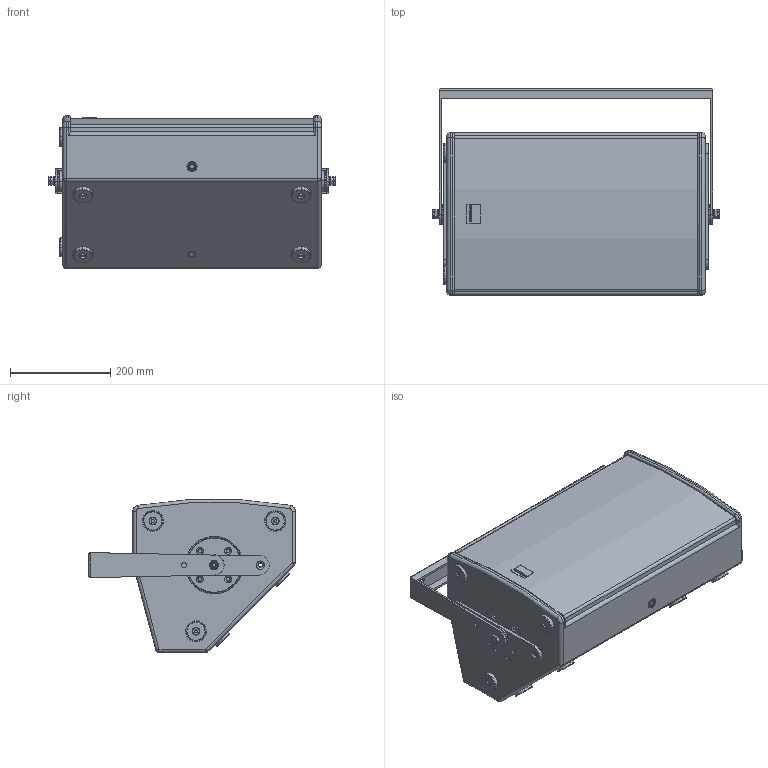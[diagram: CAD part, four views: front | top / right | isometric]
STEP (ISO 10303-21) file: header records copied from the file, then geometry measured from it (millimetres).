
FILE_DESCRIPTION (( 'STEP AP203' ), '1' );
FILE_NAME ('Baugruppe8.STEP', '2012-09-28T08:05:57', ( 'Fabian' ), ( '' ), 'SwSTEP 2.0', 'SolidWorks 2009', '' );
FILE_SCHEMA (( 'CONFIG_CONTROL_DESIGN' ));
Length unit declared in the file: millimetre
Products named in the file (28): Imported1; Imported2; Imported8; Imported7; Imported14; Imported13; Imported15; Imported22; Imported20; Imported21; Baugruppe8; SEEBURG_A4_Bracket-hor; Imported; Imported3; Imported4; Imported5; Imported6; Imported9; Imported10; Imported11; Imported12; Imported16; Imported17; Imported18; Imported19; Imported23; Imported24; Imported25
Assembly tree (27 placements, depth 3):
  Baugruppe8
    SEEBURG_A4_Bracket-hor
      Imported11
      Imported21
      Imported1
      Imported7
      Imported18
      Imported19
      Imported2
      Imported17
      Imported8
      Imported10
      Imported20
      Imported23
      Imported4
      Imported16
      Imported3
      Imported6
      Imported12
      Imported14
      Imported15
      Imported9
      Imported13
      Imported
      Imported5
      Imported22
      Imported24
      Imported25
Bounding box: 572.46 x 412 x 304.58 mm (x, y, z)
Volume: 4110026.3 mm3; surface area: 1956258.4 mm2
Topology: 33 solids, 34 shells, 888 faces, 2106 edges, 1316 vertices
Faces by surface type: cylinder 373, plane 263, torus 106, cone 96, sphere 44, bspline 6
Entity records: 34146 total; most frequent: CARTESIAN_POINT 10243, DIRECTION 4677, ORIENTED_EDGE 4166, EDGE_CURVE 2087, AXIS2_PLACEMENT_3D 1883, VERTEX_POINT 1304, EDGE_LOOP 1037, CIRCLE 969
